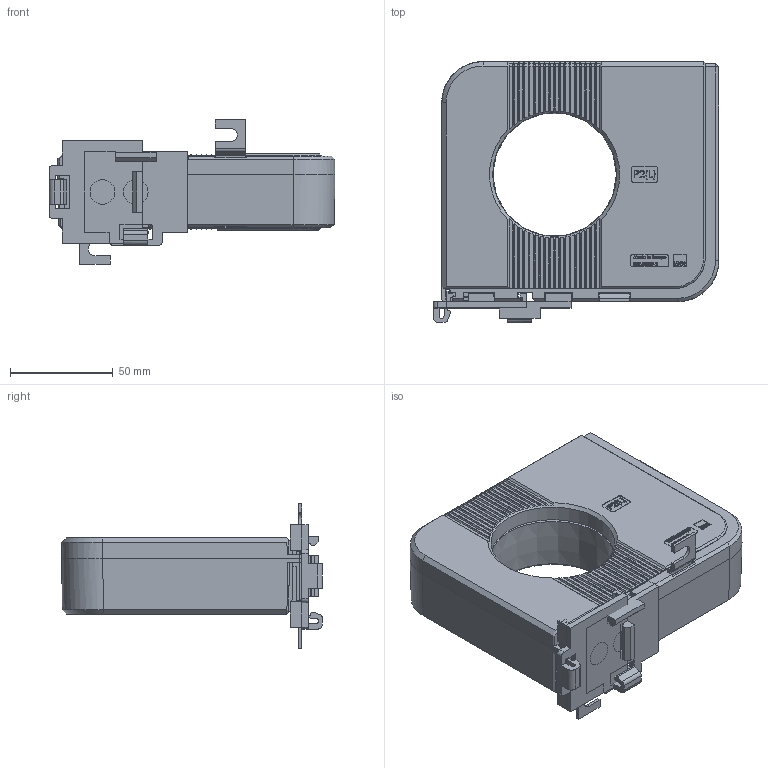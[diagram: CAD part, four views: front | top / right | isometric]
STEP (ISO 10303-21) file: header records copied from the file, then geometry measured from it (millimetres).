
FILE_DESCRIPTION (( 'STEP AP214' ), '1' );
FILE_NAME ('DACT60-Wandler_kpl.STEP', '2018-07-18T08:14:41', ( '' ), ( '' ), 'SwSTEP 2.0', 'SolidWorks 2016', '' );
FILE_SCHEMA (( 'AUTOMOTIVE_DESIGN' ));
Length unit declared in the file: millimetre
Products named in the file (5): Schnappbefestigung_W60; Fusswinkel_1,5_2; DACT60_Gehäuseoberteil_4polig_2.8422_4polige Variante; DACT60_Gehäuseunterteil_4polig_2.8420_01_4polige Variante; DACT60-Wandler_kpl
Assembly tree (6 placements, depth 2):
  DACT60-Wandler_kpl
    DACT60_Gehäuseunterteil_4polig_2.8420_01_4polige Variante
    DACT60_Gehäuseoberteil_4polig_2.8422_4polige Variante
    Fusswinkel_1,5_2  x2
    Schnappbefestigung_W60  x2
Bounding box: 139.2 x 127 x 70.4 mm (x, y, z)
Volume: 471028.8 mm3; surface area: 90414.4 mm2
Topology: 6 solids, 6 shells, 1665 faces, 4391 edges, 2796 vertices
Faces by surface type: plane 1210, bspline 200, cylinder 196, cone 38, torus 17, sphere 4
Full cylindrical faces by diameter (mm): 12 x2, 65 x1
Entity records: 58187 total; most frequent: CARTESIAN_POINT 21783, ORIENTED_EDGE 8218, DIRECTION 6250, EDGE_CURVE 4109, LINE 3100, VECTOR 3100, VERTEX_POINT 2615, EDGE_LOOP 1644
